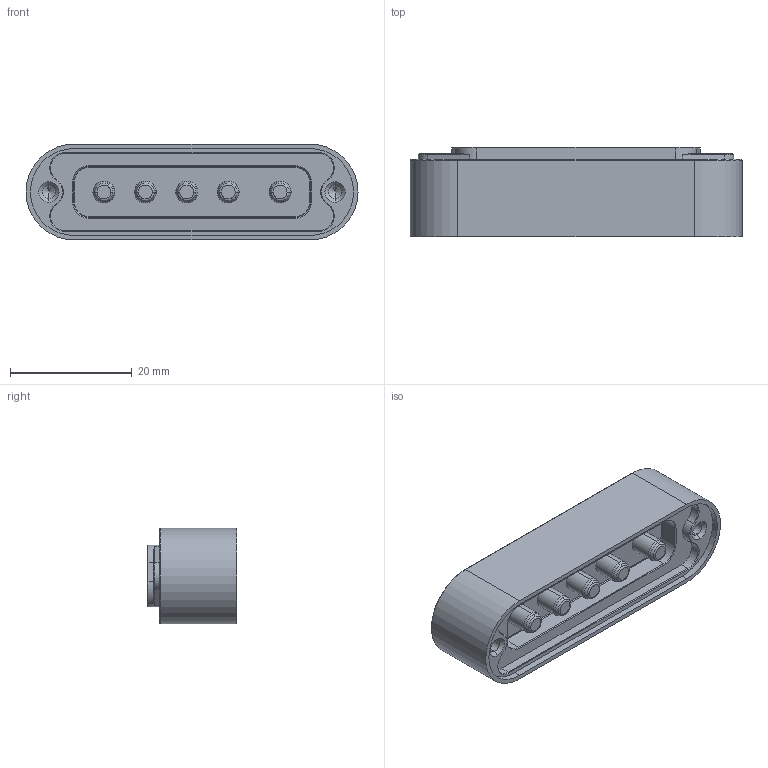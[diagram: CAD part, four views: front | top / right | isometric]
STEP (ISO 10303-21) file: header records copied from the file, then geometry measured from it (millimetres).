
FILE_DESCRIPTION (( 'STEP AP203' ), '1' );
FILE_NAME ('EAG-5PD.stp', '2018-09-27T17:29:54', ( '' ), ( '' ), 'SwSTEP 2.0', 'SolidWorks 2012', '' );
FILE_SCHEMA (( 'CONFIG_CONTROL_DESIGN' ));
Length unit declared in the file: centimetre
Products named in the file (1): EAG-5PD
Bounding box: 54.58 x 14.73 x 15.75 mm (x, y, z)
Volume: 6948.7 mm3; surface area: 5200 mm2
Topology: 1 solids, 1 shells, 1005 faces, 2728 edges, 1792 vertices
Faces by surface type: bspline 564, plane 323, cone 66, cylinder 52
Entity records: 32661 total; most frequent: CARTESIAN_POINT 10922, ORIENTED_EDGE 5440, DIRECTION 2806, EDGE_CURVE 2720, VERTEX_POINT 1792, LINE 1342, VECTOR 1342, EDGE_LOOP 1080
